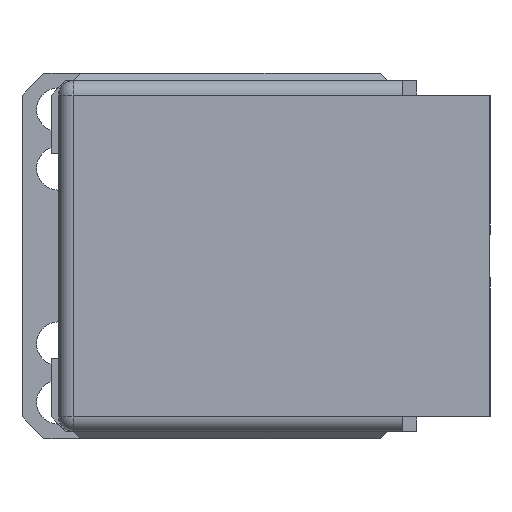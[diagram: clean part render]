
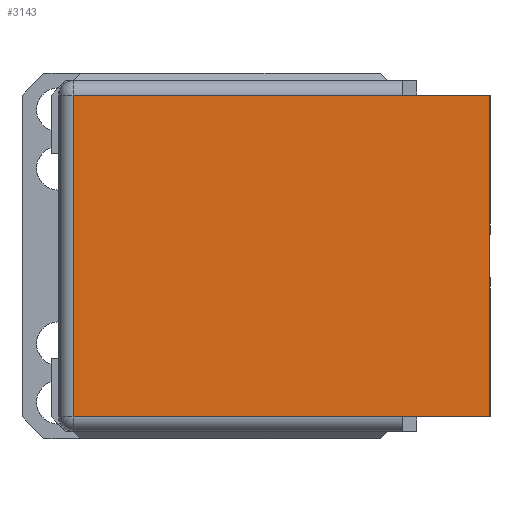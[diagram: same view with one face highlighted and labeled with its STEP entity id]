
A CAD part, left-side view. The second image highlights one B-rep face of the part: STEP entity #3143.
In plain terms, the highlighted planar face has unit normal (-1, 0, 0).
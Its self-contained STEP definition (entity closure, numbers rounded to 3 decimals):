
#7 = CARTESIAN_POINT ( 'NONE',  ( 0., 0., 11. ) ) ;
#125 = AXIS2_PLACEMENT_3D ( 'NONE', #1012, #1029, #3684 ) ;
#182 = ORIENTED_EDGE ( 'NONE', *, *, #2695, .T. ) ;
#262 = VERTEX_POINT ( 'NONE', #4855 ) ;
#445 = CARTESIAN_POINT ( 'NONE',  ( 0., 28.5, 11. ) ) ;
#475 = VECTOR ( 'NONE', #4882, 1000. ) ;
#481 = ORIENTED_EDGE ( 'NONE', *, *, #3454, .T. ) ;
#634 = CARTESIAN_POINT ( 'NONE',  ( 0., 6., -11. ) ) ;
#672 = LINE ( 'NONE', #445, #3586 ) ;
#820 = DIRECTION ( 'NONE',  ( 0., 0., -1. ) ) ;
#845 = VECTOR ( 'NONE', #1008, 1000. ) ;
#1008 = DIRECTION ( 'NONE',  ( 0., -1., 0. ) ) ;
#1012 = CARTESIAN_POINT ( 'NONE',  ( 0., 6., 11. ) ) ;
#1023 = CARTESIAN_POINT ( 'NONE',  ( 0., 6., 11. ) ) ;
#1029 = DIRECTION ( 'NONE',  ( 1., 0., 0. ) ) ;
#1076 = LINE ( 'NONE', #634, #845 ) ;
#1228 = ORIENTED_EDGE ( 'NONE', *, *, #1814, .F. ) ;
#1351 = VECTOR ( 'NONE', #2432, 1000. ) ;
#1357 = LINE ( 'NONE', #4134, #475 ) ;
#1670 = VERTEX_POINT ( 'NONE', #3246 ) ;
#1814 = EDGE_CURVE ( 'NONE', #2729, #3527, #3380, .T. ) ;
#1965 = LINE ( 'NONE', #2517, #3754 ) ;
#2432 = DIRECTION ( 'NONE',  ( 0., -1., 0. ) ) ;
#2453 = ORIENTED_EDGE ( 'NONE', *, *, #2700, .T. ) ;
#2517 = CARTESIAN_POINT ( 'NONE',  ( 0., 6., -11. ) ) ;
#2539 = PLANE ( 'NONE',  #125 ) ;
#2571 = CARTESIAN_POINT ( 'NONE',  ( 0., 28.5, -11. ) ) ;
#2579 = EDGE_CURVE ( 'NONE', #1670, #4271, #672, .T. ) ;
#2655 = VECTOR ( 'NONE', #3782, 1000. ) ;
#2695 = EDGE_CURVE ( 'NONE', #4416, #262, #1076, .T. ) ;
#2700 = EDGE_CURVE ( 'NONE', #4271, #4416, #1965, .T. ) ;
#2729 = VERTEX_POINT ( 'NONE', #1023 ) ;
#2816 = CARTESIAN_POINT ( 'NONE',  ( 0., 6., 11. ) ) ;
#3143 = ADVANCED_FACE ( 'NONE', ( #3962 ), #2539, .F. ) ;
#3246 = CARTESIAN_POINT ( 'NONE',  ( 0., 28.5, 11. ) ) ;
#3355 = EDGE_CURVE ( 'NONE', #2729, #1670, #1357, .T. ) ;
#3380 = LINE ( 'NONE', #2816, #1351 ) ;
#3454 = EDGE_CURVE ( 'NONE', #262, #3527, #3672, .T. ) ;
#3527 = VERTEX_POINT ( 'NONE', #4196 ) ;
#3586 = VECTOR ( 'NONE', #820, 1000. ) ;
#3646 = ORIENTED_EDGE ( 'NONE', *, *, #2579, .T. ) ;
#3672 = LINE ( 'NONE', #7, #2655 ) ;
#3684 = DIRECTION ( 'NONE',  ( 0., 0., -1. ) ) ;
#3754 = VECTOR ( 'NONE', #4754, 1000. ) ;
#3782 = DIRECTION ( 'NONE',  ( 0., 0., 1. ) ) ;
#3924 = ORIENTED_EDGE ( 'NONE', *, *, #3355, .T. ) ;
#3962 = FACE_OUTER_BOUND ( 'NONE', #4332, .T. ) ;
#4134 = CARTESIAN_POINT ( 'NONE',  ( 0., 6., 11. ) ) ;
#4196 = CARTESIAN_POINT ( 'NONE',  ( 0., 0., 11. ) ) ;
#4204 = CARTESIAN_POINT ( 'NONE',  ( 0., 6., -11. ) ) ;
#4271 = VERTEX_POINT ( 'NONE', #2571 ) ;
#4332 = EDGE_LOOP ( 'NONE', ( #3646, #2453, #182, #481, #1228, #3924 ) ) ;
#4416 = VERTEX_POINT ( 'NONE', #4204 ) ;
#4754 = DIRECTION ( 'NONE',  ( 0., -1., 0. ) ) ;
#4855 = CARTESIAN_POINT ( 'NONE',  ( 0., 0., -11. ) ) ;
#4882 = DIRECTION ( 'NONE',  ( 0., 1., 0. ) ) ;
